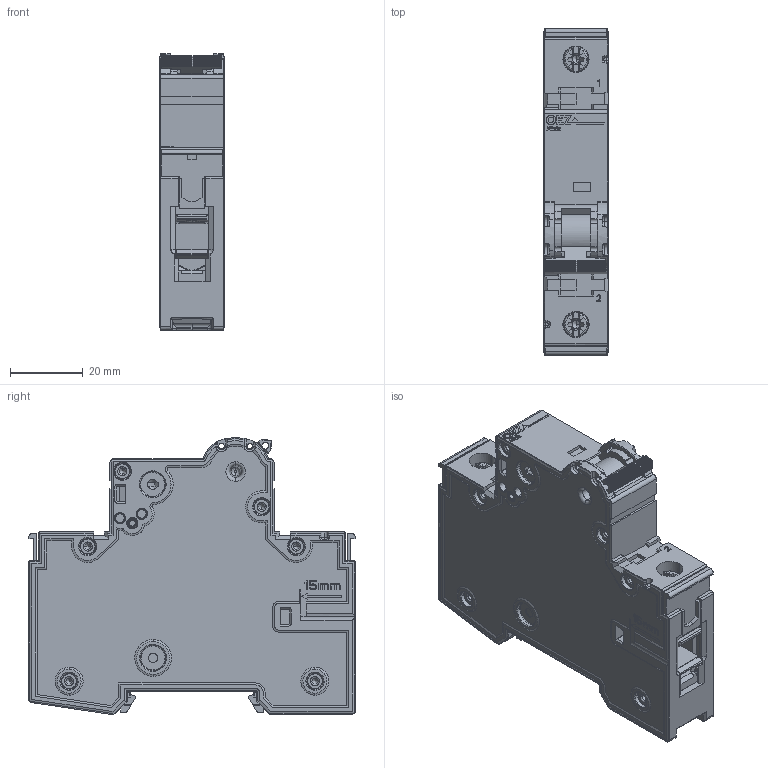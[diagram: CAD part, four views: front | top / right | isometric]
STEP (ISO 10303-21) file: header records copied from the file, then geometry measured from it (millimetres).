
FILE_DESCRIPTION (( 'STEP AP214' ), '1' );
FILE_NAME ('LTN-1_ZJ_2_upravapacky.STEP', '2016-02-22T11:44:25', ( '' ), ( '' ), 'SwSTEP 2.0', 'SolidWorks 2011', '' );
FILE_SCHEMA (( 'AUTOMOTIVE_DESIGN' ));
Length unit declared in the file: millimetre
Products named in the file (1): LTN-1_ZJ_2_upravapacky
Bounding box: 17.6 x 89.8 x 76 mm (x, y, z)
Volume: 83626.4 mm3; surface area: 23298.5 mm2
Topology: 3 solids, 3 shells, 1827 faces, 5228 edges, 3457 vertices
Faces by surface type: plane 1048, cylinder 376, cone 171, bspline 131, torus 81, sphere 20
Entity records: 89683 total; most frequent: CARTESIAN_POINT 25259, ORIENTED_EDGE 10396, DIRECTION 7412, EDGE_CURVE 5198, VERTEX_POINT 3453, LINE 3028, VECTOR 3028, AXIS2_PLACEMENT_3D 2192
